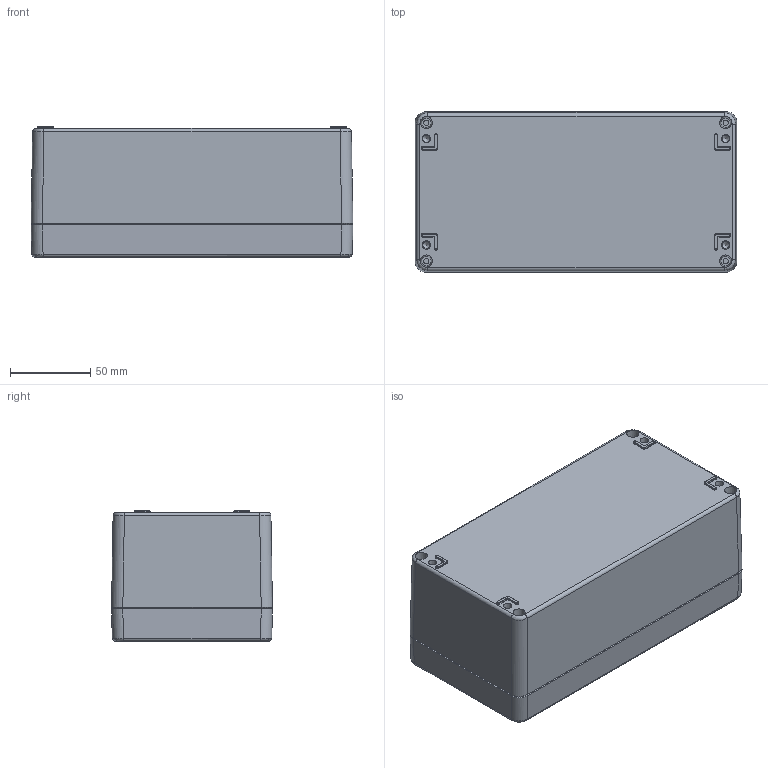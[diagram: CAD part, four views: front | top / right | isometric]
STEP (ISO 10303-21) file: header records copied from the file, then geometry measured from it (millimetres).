
FILE_DESCRIPTION(/* description */ (''),/* implementation_level */ '2;1');
FILE_NAME(/* name */ '1590Z145.stp',/* time_stamp */ '2025-11-27T14:19:38-05:00',/* author */ ('mbeerman'),/* organization */ (''),/* preprocessor_version */ 'ST-DEVELOPER v20.1',/* originating_system */ 'Autodesk Inventor 2026',/* authorisation */ '');
FILE_SCHEMA (('AUTOMOTIVE_DESIGN { 1 0 10303 214 3 1 1 }'));
Length unit declared in the file: millimetre
Products named in the file (5): 1590Z...2; 01157_200x100x81_stp.stp; lid_200x100x81_stp.stp; 1590Z...3 GASKET; SC583 (screw M4-0.7X 25mm PN)
Assembly tree (7 placements, depth 2):
  1590Z...2
    01157_200x100x81_stp.stp
    lid_200x100x81_stp.stp
    1590Z...3 GASKET
    SC583 (screw M4-0.7X 25mm PN)  x4
Bounding box: 200 x 100 x 81 mm (x, y, z)
Volume: 346054.9 mm3; surface area: 185166.9 mm2
Topology: 7 solids, 7 shells, 1019 faces, 2556 edges, 1613 vertices
Faces by surface type: plane 493, cylinder 220, cone 149, torus 80, bspline 69, sphere 8
Full cylindrical faces by diameter (mm): 3.3 x4, 3.48 x4, 3.6 x1, 3.85 x4, 5.2 x4, 5.32 x1, 6 x5, 6.9 x4
Entity records: 35439 total; most frequent: CARTESIAN_POINT 14188, ORIENTED_EDGE 4426, DIRECTION 4307, EDGE_CURVE 2213, AXIS2_PLACEMENT_3D 1537, VERTEX_POINT 1397, LINE 1233, VECTOR 1233
